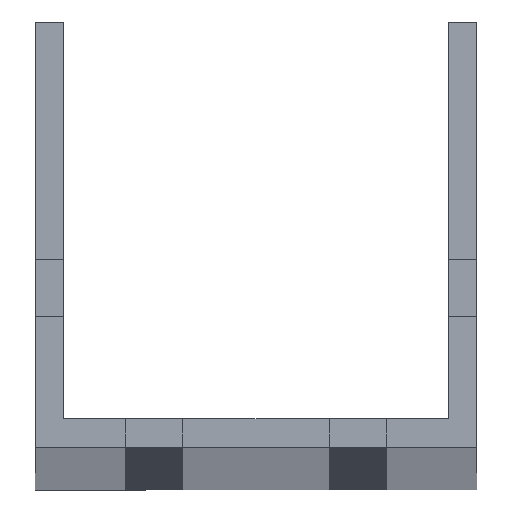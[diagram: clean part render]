
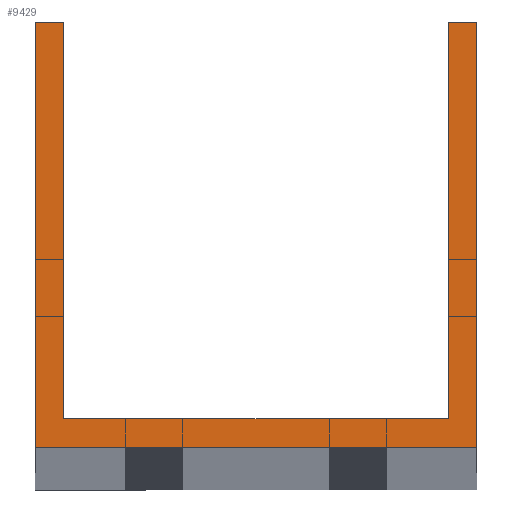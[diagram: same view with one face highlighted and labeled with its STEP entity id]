
A CAD part, top view. The second image highlights one B-rep face of the part: STEP entity #9429.
In plain terms, the highlighted planar face has unit normal (0, 0, 1).
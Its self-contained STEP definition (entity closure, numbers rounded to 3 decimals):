
#780 = CARTESIAN_POINT ( 'NONE',  ( -23.5, 52., 1500. ) ) ;
#869 = CARTESIAN_POINT ( 'NONE',  ( 27., 0., 1500. ) ) ;
#1524 = CARTESIAN_POINT ( 'NONE',  ( 23.5, 52., 1500. ) ) ;
#1528 = VERTEX_POINT ( 'NONE', #1524 ) ;
#2430 = VECTOR ( 'NONE', #33214, 1000. ) ;
#2771 = CARTESIAN_POINT ( 'NONE',  ( -27., 52., 1500. ) ) ;
#3700 = VERTEX_POINT ( 'NONE', #32510 ) ;
#3822 = CARTESIAN_POINT ( 'NONE',  ( -27., 0., 1500. ) ) ;
#4448 = PLANE ( 'NONE',  #35044 ) ;
#4918 = EDGE_CURVE ( 'NONE', #13838, #36266, #32148, .T. ) ;
#5184 = VECTOR ( 'NONE', #11569, 1000. ) ;
#5220 = VERTEX_POINT ( 'NONE', #31860 ) ;
#5981 = ORIENTED_EDGE ( 'NONE', *, *, #13287, .T. ) ;
#6413 = LINE ( 'NONE', #25130, #22869 ) ;
#6956 = LINE ( 'NONE', #31858, #21612 ) ;
#7528 = VECTOR ( 'NONE', #34342, 1000. ) ;
#7768 = ORIENTED_EDGE ( 'NONE', *, *, #36902, .T. ) ;
#8313 = VECTOR ( 'NONE', #15836, 1000. ) ;
#8338 = ORIENTED_EDGE ( 'NONE', *, *, #24638, .T. ) ;
#9429 = ADVANCED_FACE ( 'NONE', ( #29336 ), #4448, .T. ) ;
#10003 = DIRECTION ( 'NONE',  ( 0., 1., 0. ) ) ;
#10230 = CARTESIAN_POINT ( 'NONE',  ( -27., 3.5, 1500. ) ) ;
#10420 = ORIENTED_EDGE ( 'NONE', *, *, #12529, .F. ) ;
#11569 = DIRECTION ( 'NONE',  ( -1., 0., 0. ) ) ;
#12529 = EDGE_CURVE ( 'NONE', #5220, #1528, #16731, .T. ) ;
#13287 = EDGE_CURVE ( 'NONE', #39015, #13838, #15235, .T. ) ;
#13517 = VERTEX_POINT ( 'NONE', #23942 ) ;
#13838 = VERTEX_POINT ( 'NONE', #3822 ) ;
#14558 = LINE ( 'NONE', #2771, #5184 ) ;
#15235 = LINE ( 'NONE', #33564, #8313 ) ;
#15799 = VERTEX_POINT ( 'NONE', #780 ) ;
#15836 = DIRECTION ( 'NONE',  ( 0., -1., 0. ) ) ;
#16731 = LINE ( 'NONE', #31861, #17256 ) ;
#17256 = VECTOR ( 'NONE', #26261, 1000. ) ;
#21050 = LINE ( 'NONE', #32433, #2430 ) ;
#21439 = VECTOR ( 'NONE', #30257, 1000. ) ;
#21612 = VECTOR ( 'NONE', #28066, 1000. ) ;
#22869 = VECTOR ( 'NONE', #10003, 1000. ) ;
#23450 = EDGE_CURVE ( 'NONE', #13517, #5220, #28547, .T. ) ;
#23942 = CARTESIAN_POINT ( 'NONE',  ( -23.5, 3.5, 1500. ) ) ;
#24638 = EDGE_CURVE ( 'NONE', #36266, #3700, #6413, .T. ) ;
#25130 = CARTESIAN_POINT ( 'NONE',  ( 27., 52., 1500. ) ) ;
#25567 = DIRECTION ( 'NONE',  ( 0., 0., 1. ) ) ;
#26261 = DIRECTION ( 'NONE',  ( 0., 1., 0. ) ) ;
#27436 = ORIENTED_EDGE ( 'NONE', *, *, #4918, .T. ) ;
#28006 = ORIENTED_EDGE ( 'NONE', *, *, #28613, .T. ) ;
#28066 = DIRECTION ( 'NONE',  ( 0., -1., 0. ) ) ;
#28547 = LINE ( 'NONE', #10230, #7528 ) ;
#28613 = EDGE_CURVE ( 'NONE', #15799, #39015, #21050, .T. ) ;
#29336 = FACE_OUTER_BOUND ( 'NONE', #38295, .T. ) ;
#30257 = DIRECTION ( 'NONE',  ( 1., 0., 0. ) ) ;
#31858 = CARTESIAN_POINT ( 'NONE',  ( -23.5, 52., 1500. ) ) ;
#31860 = CARTESIAN_POINT ( 'NONE',  ( 23.5, 3.5, 1500. ) ) ;
#31861 = CARTESIAN_POINT ( 'NONE',  ( 23.5, 52., 1500. ) ) ;
#32148 = LINE ( 'NONE', #36260, #21439 ) ;
#32433 = CARTESIAN_POINT ( 'NONE',  ( -27., 52., 1500. ) ) ;
#32510 = CARTESIAN_POINT ( 'NONE',  ( 27., 52., 1500. ) ) ;
#33214 = DIRECTION ( 'NONE',  ( -1., 0., 0. ) ) ;
#33564 = CARTESIAN_POINT ( 'NONE',  ( -27., 52., 1500. ) ) ;
#33951 = ORIENTED_EDGE ( 'NONE', *, *, #23450, .F. ) ;
#34342 = DIRECTION ( 'NONE',  ( 1., 0., 0. ) ) ;
#35044 = AXIS2_PLACEMENT_3D ( 'NONE', #37552, #25567, #35146 ) ;
#35146 = DIRECTION ( 'NONE',  ( 1., 0., 0. ) ) ;
#35358 = EDGE_CURVE ( 'NONE', #15799, #13517, #6956, .T. ) ;
#35461 = ORIENTED_EDGE ( 'NONE', *, *, #35358, .F. ) ;
#36260 = CARTESIAN_POINT ( 'NONE',  ( -27., 0., 1500. ) ) ;
#36266 = VERTEX_POINT ( 'NONE', #869 ) ;
#36902 = EDGE_CURVE ( 'NONE', #3700, #1528, #14558, .T. ) ;
#37552 = CARTESIAN_POINT ( 'NONE',  ( 0., 0., 1500. ) ) ;
#38164 = CARTESIAN_POINT ( 'NONE',  ( -27., 52., 1500. ) ) ;
#38295 = EDGE_LOOP ( 'NONE', ( #35461, #28006, #5981, #27436, #8338, #7768, #10420, #33951 ) ) ;
#39015 = VERTEX_POINT ( 'NONE', #38164 ) ;
